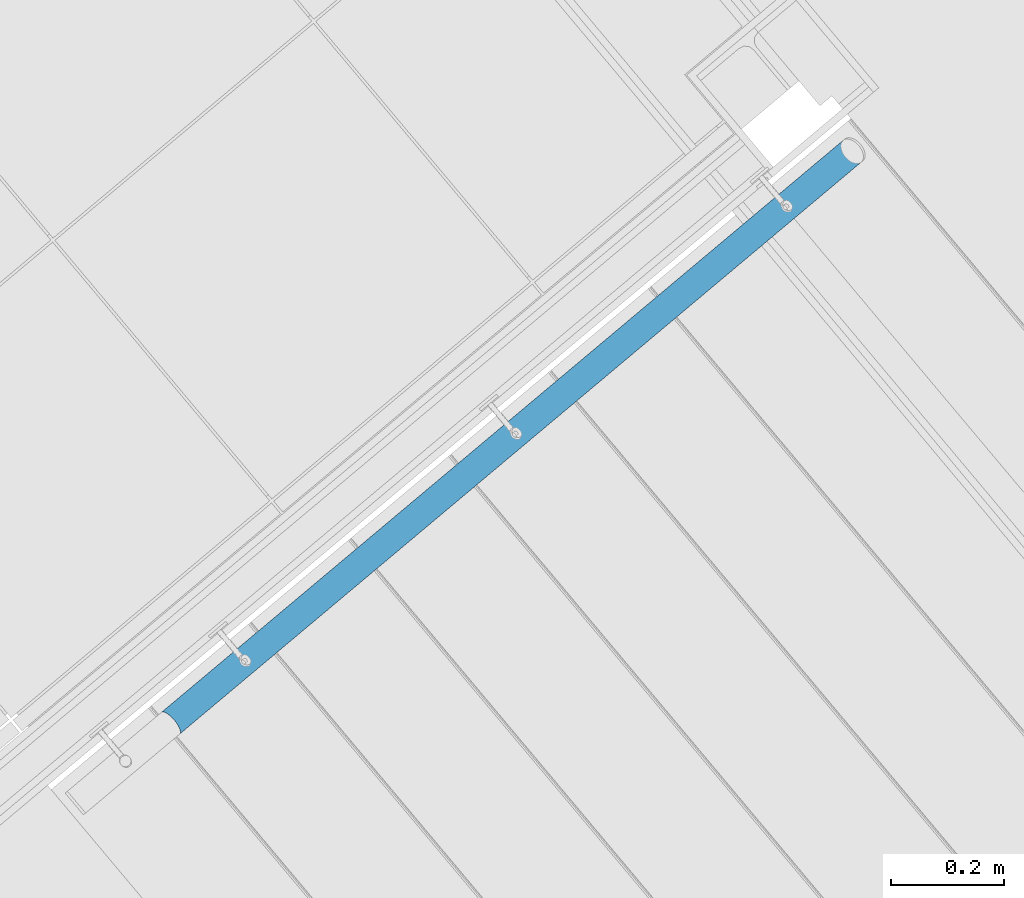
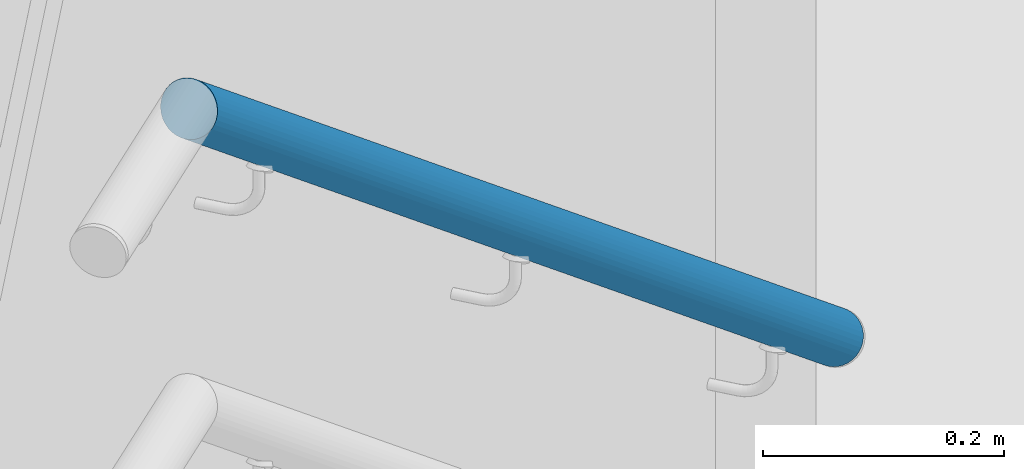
# One storey, part 12 of 338: 1 building element part, 2 elements without a shape of their own.
"""IFC2X3 building model written with IfcOpenShell, lengths in millimetres."""

from ifc_helpers import new_model, entity, si_unit, converted_unit, derived_unit, money_unit, direction, frame, origin_with_axes, place, context, subcontext, project, spatial, faceted_brep, source, transform, mapped, material, type_object, element, aggregate, save


model = new_model("IFC2X3")

# Units and contexts
model_context = context("Model", 3, precision=0.01, world=origin_with_axes(), true_north=direction((0.0, 1.0)))
plan_context = context("Plan", 3, precision=0.01, world=origin_with_axes(), true_north=direction((0.0, 1.0)))
body_context = subcontext(model_context, "Body", "Model", "MODEL_VIEW")
ifc_project = project(units=[si_unit("LENGTHUNIT", "METRE", prefix="MILLI"), si_unit("AREAUNIT", "SQUARE_METRE"), si_unit("VOLUMEUNIT", "CUBIC_METRE"), converted_unit("PLANEANGLEUNIT", "DEGREE", entity("IfcPlaneAngleMeasure", 0.0174532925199), si_unit("PLANEANGLEUNIT", "RADIAN"), dimensions=[0, 0, 0, 0, 0, 0, 0]), money_unit("EUR"), converted_unit("TIMEUNIT", "Year", entity("IfcTimeMeasure", 31556926.0), si_unit("TIMEUNIT", "SECOND"), dimensions=[0, 0, 1, 0, 0, 0, 0]), si_unit("MASSUNIT", "GRAM", prefix="KILO"), si_unit("THERMODYNAMICTEMPERATUREUNIT", "DEGREE_CELSIUS"), si_unit("LUMINOUSINTENSITYUNIT", "LUMEN"), si_unit("ENERGYUNIT", "JOULE", prefix="MEGA"), derived_unit("THERMALCONDUCTANCEUNIT", [(si_unit("POWERUNIT", "WATT"), 1), (si_unit("LENGTHUNIT", "METRE"), -1), (si_unit("THERMODYNAMICTEMPERATUREUNIT", "KELVIN"), -1)]), derived_unit("SPECIFICHEATCAPACITYUNIT", [(si_unit("ENERGYUNIT", "JOULE"), 1), (si_unit("MASSUNIT", "GRAM", prefix="KILO"), -1), (si_unit("THERMODYNAMICTEMPERATUREUNIT", "KELVIN"), -1)]), derived_unit("MASSDENSITYUNIT", [(si_unit("MASSUNIT", "GRAM", prefix="KILO"), 1), (si_unit("VOLUMEUNIT", "CUBIC_METRE"), -1)])], contexts=[model_context, plan_context])

# Site, building, storey
site_placement = place(None, origin_with_axes())
site = spatial("IfcSite", under=ifc_project, at=site_placement, Name="Fortuinstraat Woensdrecht", CompositionType="ELEMENT")
building_placement = place(site_placement, origin_with_axes())
building = spatial("IfcBuilding", under=site, at=building_placement, Name="IKC Fortuna", CompositionType="ELEMENT")
storey_placement = place(building_placement, origin_with_axes())
storey = spatial("IfcBuildingStorey", under=building, at=storey_placement, Name="00 begane grond", CompositionType="ELEMENT", Elevation=0.0)

# Railing, member, building element part
railing_type = type_object("IfcRailingType", Name="Railing Type", PredefinedType="NOTDEFINED")
railing_placement = place(storey_placement, frame((18628.4030383, 5997.03974934, 25.0), z_axis=(0.0, 0.0, 1.0), x_axis=(0.173648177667, 0.984807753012, 0.0)))
railing = element("IfcRailing", 1, at=railing_placement, inside=storey, type_object=railing_type, Name="_Reling_Reling-x", PredefinedType="NOTDEFINED")
member_type = type_object("IfcMemberType", Name="IfcMember", PredefinedType="USERDEFINED")
member_placement = place(railing_placement, frame((-765.432026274, 437.395073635, 1025.34830056), z_axis=(0.0, 0.0, 1.0), x_axis=(0.173648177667, -0.984807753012, 0.0)))
member = element("IfcMember", 2, at=member_placement, type_object=member_type, Name="_Reling - regel_Handregel-x")
aggregate(railing, [member])
ifc_material = material(Name="Hout AFW")
shared_shape = source(origin_with_axes(), body_context, "Body", "Brep", [
    faceted_brep([(68.3343935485, -105.836546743, 880.531152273), (70.1764780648, -103.795052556, 883.911882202), (-1131.99702596, -1112.53839639, 2148.09120444), (-1132.92574558, -1113.81348644, 2143.75), (66.0040396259, -107.296144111, 877.150422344), (63.2562229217, -108.129495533, 873.872414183), (60.1744344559, -108.311280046, 870.796728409), (56.8523128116, -107.835974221, 868.016818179), (53.390798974, -106.718019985, 865.617149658), (49.8950692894, -104.991385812, 863.670635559), (46.4713397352, -102.708534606, 862.236419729), (43.2236386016, -99.9388296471, 861.358080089), (40.2506456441, -96.7664270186, 861.062304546), (37.6426937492, -93.2877185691, 861.358080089), (35.4790242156, -89.6084030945, 862.236419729), (33.8253790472, -85.8402747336, 863.670635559), (32.7320034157, -82.09782616, 865.617149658), (32.2321189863, -78.4947697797, 868.016818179), (32.3409144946, -75.1405826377, 870.796728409), (33.0550842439, -72.137180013, 873.872414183), (34.3529285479, -69.5758187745, 877.150422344), (36.1950130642, -67.5343245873, 880.531152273), (38.5253669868, -66.0747272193, 883.911882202), (41.2731836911, -65.2413757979, 887.189890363), (44.3549721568, -65.0595912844, 890.265576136), (47.6770938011, -65.5348971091, 893.045486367), (51.1386076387, -66.6528513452, 895.445154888), (54.6343373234, -68.3794855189, 897.391668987), (58.0580668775, -70.6623367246, 898.825884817), (61.3057680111, -73.4320416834, 899.704224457), (64.2787609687, -76.6044443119, 900.0), (66.8867128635, -80.0831527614, 899.704224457), (69.0503823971, -83.762468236, 898.825884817), (70.7040275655, -87.5305965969, 897.391668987), (71.797403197, -91.2730451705, 895.445154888), (72.2972876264, -94.8761015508, 893.045486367), (72.1884921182, -98.2302886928, 890.265576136), (71.4743223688, -101.233691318, 887.189890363), (-1131.58479442, -1110.7201525, 2152.30050358), (-1131.7015764, -1108.41400117, 2156.25), (-1132.34382356, -1105.69001365, 2159.81969024), (-1133.49202153, -1102.63095692, 2162.90111108), (-1135.11128289, -1099.32977887, 2165.40063509), (-1137.15240722, -1095.88678413, 2167.24231552), (-1139.55337598, -1092.40658634, 2168.37019383), (-1142.24123694, -1088.99492957, 2168.75), (-1145.13432083, -1085.75547527, 2168.37019383), (-1148.14472274, -1082.78665261, 2167.24231552), (-1151.18097313, -1080.17866779, 2165.40063509), (-1154.15081708, -1078.01076309, 2162.90111108), (-1156.96401738, -1076.3488092, 2159.81969024), (-1159.53509636, -1075.24330376, 2156.25), (-1161.78593309, -1074.72783698, 2152.30050358), (-1163.64813704, -1074.81807106, 2148.09120444), (-1165.06512607, -1075.51126428, 2143.75), (-1165.99384569, -1076.78635432, 2139.40879556), (-1166.40607723, -1078.60459822, 2135.19949642), (-1166.28929525, -1080.91074955, 2131.25), (-1165.64704809, -1083.63473707, 2127.68030976), (-1164.49885012, -1086.6937938, 2124.59888892), (-1162.87958876, -1089.99497185, 2122.09936491), (-1160.83846443, -1093.43796659, 2120.25768448), (-1158.43749567, -1096.91816437, 2119.12980617), (-1155.74963471, -1100.32982115, 2118.75), (-1152.85655082, -1103.56927545, 2119.12980617), (-1149.84614891, -1106.5380981, 2120.25768448), (-1146.80989852, -1109.14608293, 2122.09936491), (-1143.84005457, -1111.31398762, 2124.59888892), (-1141.02685427, -1112.97594151, 2127.68030976), (-1138.45577528, -1114.08144696, 2131.25), (-1136.20493856, -1114.59691374, 2135.19949642), (-1134.34273461, -1114.50667966, 2139.40879556)], [[[0, 1, 2, 3]], [[0, 4, 5, 6, 7, 8, 9, 10, 11, 12, 13, 14, 15, 16, 17, 18, 19, 20, 21, 22, 23, 24, 25, 26, 27, 28, 29, 30, 31, 32, 33, 34, 35, 36, 37, 1]], [[1, 37, 38, 2]], [[3, 2, 38, 39, 40, 41, 42, 43, 44, 45, 46, 47, 48, 49, 50, 51, 52, 53, 54, 55, 56, 57, 58, 59, 60, 61, 62, 63, 64, 65, 66, 67, 68, 69, 70, 71]], [[4, 0, 3, 71]], [[5, 4, 71, 70]], [[6, 5, 70, 69]], [[7, 6, 69, 68]], [[8, 7, 68, 67]], [[9, 8, 67, 66]], [[10, 9, 66, 65]], [[11, 10, 65, 64]], [[12, 11, 64, 63]], [[13, 12, 63, 62]], [[14, 13, 62, 61]], [[15, 14, 61, 60]], [[16, 15, 60, 59]], [[17, 16, 59, 58]], [[18, 17, 58, 57]], [[19, 18, 57, 56]], [[20, 19, 56, 55]], [[21, 20, 55, 54]], [[22, 21, 54, 53]], [[23, 22, 53, 52]], [[24, 23, 52, 51]], [[25, 24, 51, 50]], [[26, 25, 50, 49]], [[27, 26, 49, 48]], [[28, 27, 48, 47]], [[29, 28, 47, 46]], [[30, 29, 46, 45]], [[31, 30, 45, 44]], [[32, 31, 44, 43]], [[33, 32, 43, 42]], [[34, 33, 42, 41]], [[35, 34, 41, 40]], [[36, 35, 40, 39]], [[37, 36, 39, 38]]]),
])
building_element_part_placement = place(member_placement, origin_with_axes())
building_element_part = element("IfcBuildingElementPart", 3, at=building_element_part_placement, material=ifc_material, Name="Hout AFW", context=body_context, shape_type="MappedRepresentation", body=[
    mapped(shared_shape, transform((538.981237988, 582.79968694, -844.098300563))),
])
aggregate(member, [building_element_part])

save(model, "model.ifc")
